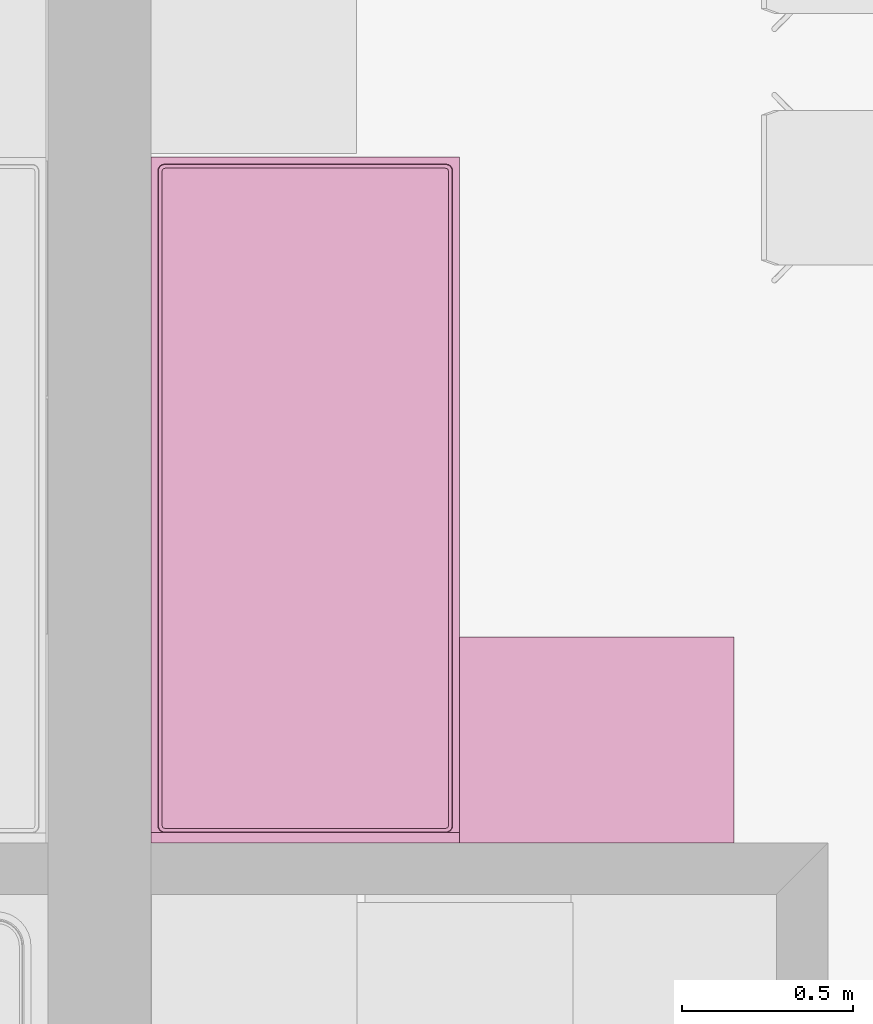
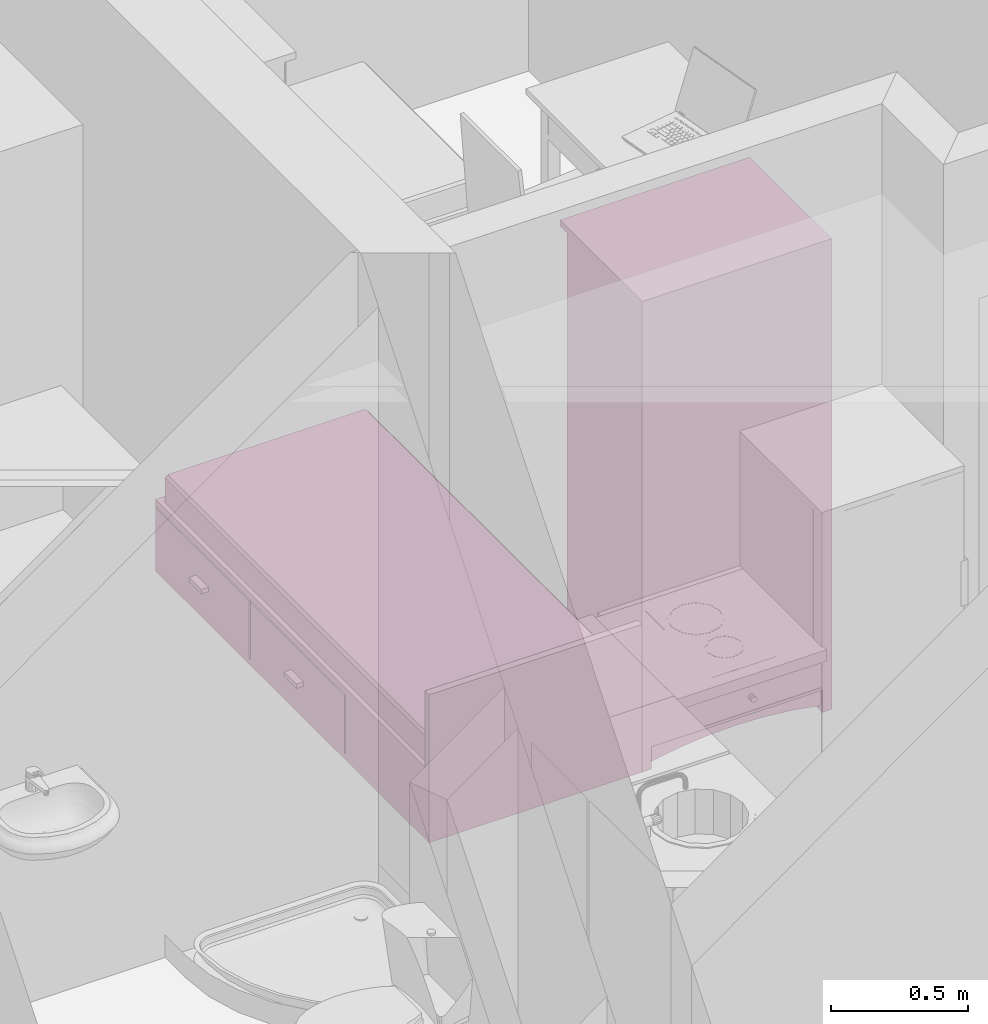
# One storey, part 110 of 172: 2 furnishings.
"""IFC2X3 building model written with IfcOpenShell, lengths in millimetres."""

from ifc_helpers import new_model, entity, si_unit, converted_unit, money_unit, direction, frame, origin_with_axes, place, context, subcontext, project, spatial, faceted_brep, source, transform, mapped, material, material_list, type_object, element, save


model = new_model("IFC2X3")

# Units and contexts
model_context = context("Model", 3, precision=1e-05, world=origin_with_axes(), true_north=direction((0.0, 1.0)))
body_context = subcontext(model_context, "Body", "Model", "MODEL_VIEW")
ifc_project = project(units=[si_unit("LENGTHUNIT", "METRE", prefix="MILLI"), si_unit("AREAUNIT", "SQUARE_METRE"), si_unit("VOLUMEUNIT", "CUBIC_METRE"), converted_unit("PLANEANGLEUNIT", "DEGREE", entity("IfcPlaneAngleMeasure", 0.0174532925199), si_unit("PLANEANGLEUNIT", "RADIAN"), dimensions=[0, 0, 0, 0, 0, 0, 0]), si_unit("SOLIDANGLEUNIT", "STERADIAN"), money_unit("USD"), converted_unit("TIMEUNIT", "Year", entity("IfcTimeMeasure", 31556926.0), si_unit("TIMEUNIT", "SECOND"), dimensions=[0, 0, 0, 0, 0, 0, 0]), si_unit("MASSUNIT", "GRAM"), si_unit("THERMODYNAMICTEMPERATUREUNIT", "DEGREE_CELSIUS"), si_unit("LUMINOUSINTENSITYUNIT", "LUMEN")], contexts=[model_context])

# Site, building, storey
site_placement = place(None, origin_with_axes())
site = spatial("IfcSite", under=ifc_project, at=site_placement, Name="Site", CompositionType="ELEMENT")
building_placement = place(site_placement, origin_with_axes())
building = spatial("IfcBuilding", under=site, at=building_placement, Name="Building", CompositionType="ELEMENT")
storey_placement = place(building_placement, frame((0.0, 0.0, 3200.0), z_axis=(0.0, 0.0, 1.0), x_axis=(1.0, 0.0, 0.0)))
storey = spatial("IfcBuildingStorey", under=building, at=storey_placement, Name="3KORRUS", CompositionType="ELEMENT", Elevation=3200.0)

# Furnishings
ifc_material = material(Name="Background")
ifc_material_list = material_list([ifc_material])
furnishing_element_type_1 = type_object("IfcFurnishingElementType", Name="Bed 19")
shared_shape_1 = source(origin_with_axes(), body_context, "Body", "Brep", [
    faceted_brep([(900.0, 1970.0, 0.0), (0.0, 1970.0, 0.0), (0.0, 2000.0, 0.0), (900.0, 2000.0, 0.0), (900.0, 1970.0, 660.0), (0.0, 1970.0, 660.0), (0.0, 2000.0, 660.0), (900.0, 2000.0, 660.0)], [[[0, 1, 2, 3]], [[1, 0, 4, 5]], [[2, 1, 5, 6]], [[3, 2, 6, 7]], [[0, 3, 7, 4]], [[5, 4, 7, 6]]]),
    faceted_brep([(900.0, 0.0, 0.0), (0.0, 0.0, 0.0), (0.0, 1970.0, 0.0), (900.0, 1970.0, 0.0), (900.0, 0.0, 320.0), (0.0, 0.0, 320.0), (0.0, 1970.0, 320.0), (900.0, 1970.0, 320.0)], [[[0, 1, 2, 3]], [[1, 0, 4, 5]], [[2, 1, 5, 6]], [[3, 2, 6, 7]], [[0, 3, 7, 4]], [[5, 4, 7, 6]]]),
    faceted_brep([(905.0, 10.0, 30.0), (900.0, 10.0, 30.0), (900.0, 695.0, 30.0), (905.0, 695.0, 30.0), (905.0, 10.0, 290.0), (900.0, 10.0, 290.0), (900.0, 695.0, 290.0), (905.0, 695.0, 290.0)], [[[0, 1, 2, 3]], [[1, 0, 4, 5]], [[2, 1, 5, 6]], [[3, 2, 6, 7]], [[0, 3, 7, 4]], [[5, 4, 7, 6]]]),
    faceted_brep([(935.0, 307.5, 150.0), (905.0, 307.5, 150.0), (905.0, 397.5, 150.0), (935.0, 397.5, 150.0), (935.0, 307.5, 170.0), (905.0, 307.5, 170.0), (905.0, 397.5, 170.0), (935.0, 397.5, 170.0)], [[[0, 1, 2, 3]], [[1, 0, 4, 5]], [[2, 1, 5, 6]], [[3, 2, 6, 7]], [[0, 3, 7, 4]], [[5, 4, 7, 6]]]),
    faceted_brep([(905.0, 705.0, 30.0), (900.0, 705.0, 30.0), (900.0, 1390.0, 30.0), (905.0, 1390.0, 30.0), (905.0, 705.0, 290.0), (900.0, 705.0, 290.0), (900.0, 1390.0, 290.0), (905.0, 1390.0, 290.0)], [[[0, 1, 2, 3]], [[1, 0, 4, 5]], [[2, 1, 5, 6]], [[3, 2, 6, 7]], [[0, 3, 7, 4]], [[5, 4, 7, 6]]]),
    faceted_brep([(935.0, 1002.5, 150.0), (905.0, 1002.5, 150.0), (905.0, 1092.5, 150.0), (935.0, 1092.5, 150.0), (935.0, 1002.5, 170.0), (905.0, 1002.5, 170.0), (905.0, 1092.5, 170.0), (935.0, 1092.5, 170.0)], [[[0, 1, 2, 3]], [[1, 0, 4, 5]], [[2, 1, 5, 6]], [[3, 2, 6, 7]], [[0, 3, 7, 4]], [[5, 4, 7, 6]]]),
    faceted_brep([(20.0, 40.0, 350.0), (20.0, 1950.0, 350.0), (21.522, 1957.654, 350.0), (25.858, 1964.142, 350.0), (32.346, 1968.478, 350.0), (40.0, 1970.0, 350.0), (860.0, 1970.0, 350.0), (867.654, 1968.478, 350.0), (874.142, 1964.142, 350.0), (878.478, 1957.654, 350.0), (880.0, 1950.0, 350.0), (880.0, 40.0, 350.0), (878.478, 32.346, 350.0), (874.142, 25.858, 350.0), (867.654, 21.522, 350.0), (860.0, 20.0, 350.0), (40.0, 20.0, 350.0), (32.346, 21.522, 350.0), (25.858, 25.858, 350.0), (21.522, 32.346, 350.0), (20.0, 40.0, 420.0), (20.0, 1950.0, 420.0), (21.522, 1957.654, 420.0), (25.858, 1964.142, 420.0), (32.346, 1968.478, 420.0), (40.0, 1970.0, 420.0), (860.0, 1970.0, 420.0), (867.654, 1968.478, 420.0), (874.142, 1964.142, 420.0), (878.478, 1957.654, 420.0), (880.0, 1950.0, 420.0), (880.0, 40.0, 420.0), (878.478, 32.346, 420.0), (874.142, 25.858, 420.0), (867.654, 21.522, 420.0), (860.0, 20.0, 420.0), (40.0, 20.0, 420.0), (32.346, 21.522, 420.0), (25.858, 25.858, 420.0), (21.522, 32.346, 420.0), (21.522, 40.15, 427.654), (21.522, 1949.85, 427.654), (22.956, 1957.06, 427.654), (26.955, 1963.045, 427.654), (32.94, 1967.044, 427.654), (40.15, 1968.478, 427.654), (859.85, 1968.478, 427.654), (867.06, 1967.044, 427.654), (873.045, 1963.045, 427.654), (877.044, 1957.06, 427.654), (878.478, 1949.85, 427.654), (878.478, 40.15, 427.654), (877.044, 32.94, 427.654), (873.045, 26.955, 427.654), (867.06, 22.956, 427.654), (859.85, 21.522, 427.654), (40.15, 21.522, 427.654), (32.94, 22.956, 427.654), (26.955, 26.955, 427.654), (22.956, 32.94, 427.654), (32.346, 41.216, 438.478), (32.346, 1948.784, 438.478), (33.152, 1952.836, 438.478), (34.759, 1955.241, 438.478), (37.164, 1956.848, 438.478), (41.216, 1957.654, 438.478), (858.784, 1957.654, 438.478), (862.836, 1956.848, 438.478), (865.241, 1955.241, 438.478), (866.848, 1952.836, 438.478), (867.654, 1948.784, 438.478), (867.654, 41.216, 438.478), (866.848, 37.164, 438.478), (865.241, 34.759, 438.478), (862.836, 33.152, 438.478), (858.784, 32.346, 438.478), (41.216, 32.346, 438.478), (37.164, 33.152, 438.478), (34.759, 34.759, 438.478), (33.152, 37.164, 438.478), (40.0, 41.97, 440.0), (40.0, 1948.03, 440.0), (40.327, 1949.673, 440.0), (40.0, 1950.0, 439.924), (41.97, 1950.0, 440.0), (858.03, 1950.0, 440.0), (859.673, 1949.673, 440.0), (860.0, 1950.0, 439.924), (860.0, 1948.03, 440.0), (860.0, 41.97, 440.0), (859.673, 40.327, 440.0), (860.0, 40.0, 439.924), (858.03, 40.0, 440.0), (41.97, 40.0, 440.0), (40.327, 40.327, 440.0), (40.0, 40.0, 439.924)], [[[0, 1, 2, 3, 4, 5, 6, 7, 8, 9, 10, 11, 12, 13, 14, 15, 16, 17, 18, 19]], [[1, 0, 20, 21]], [[2, 1, 21, 22]], [[3, 2, 22, 23]], [[4, 3, 23, 24]], [[5, 4, 24, 25]], [[6, 5, 25, 26]], [[7, 6, 26, 27]], [[8, 7, 27, 28]], [[9, 8, 28, 29]], [[10, 9, 29, 30]], [[11, 10, 30, 31]], [[12, 11, 31, 32]], [[13, 12, 32, 33]], [[14, 13, 33, 34]], [[15, 14, 34, 35]], [[16, 15, 35, 36]], [[17, 16, 36, 37]], [[18, 17, 37, 38]], [[19, 18, 38, 39]], [[0, 19, 39, 20]], [[21, 20, 40, 41]], [[22, 21, 41, 42]], [[23, 22, 42, 43]], [[24, 23, 43, 44]], [[25, 24, 44, 45]], [[26, 25, 45, 46]], [[27, 26, 46, 47]], [[28, 27, 47, 48]], [[29, 28, 48, 49]], [[30, 29, 49, 50]], [[31, 30, 50, 51]], [[32, 31, 51, 52]], [[33, 32, 52, 53]], [[34, 33, 53, 54]], [[35, 34, 54, 55]], [[36, 35, 55, 56]], [[37, 36, 56, 57]], [[38, 37, 57, 58]], [[39, 38, 58, 59]], [[20, 39, 59, 40]], [[41, 40, 60, 61]], [[42, 41, 61, 62]], [[43, 42, 62, 63]], [[44, 43, 63, 64]], [[45, 44, 64, 65]], [[46, 45, 65, 66]], [[47, 46, 66, 67]], [[48, 47, 67, 68]], [[49, 48, 68, 69]], [[50, 49, 69, 70]], [[51, 50, 70, 71]], [[52, 51, 71, 72]], [[53, 52, 72, 73]], [[54, 53, 73, 74]], [[55, 54, 74, 75]], [[56, 55, 75, 76]], [[57, 56, 76, 77]], [[58, 57, 77, 78]], [[59, 58, 78, 79]], [[40, 59, 79, 60]], [[61, 60, 80, 81]], [[62, 61, 81, 82, 83]], [[63, 62, 83]], [[64, 63, 83]], [[65, 64, 83, 82, 84]], [[66, 65, 84, 85]], [[67, 66, 85, 86, 87]], [[68, 67, 87]], [[69, 68, 87]], [[70, 69, 87, 86, 88]], [[71, 70, 88, 89]], [[72, 71, 89, 90, 91]], [[73, 72, 91]], [[74, 73, 91]], [[75, 74, 91, 90, 92]], [[76, 75, 92, 93]], [[77, 76, 93, 94, 95]], [[78, 77, 95]], [[79, 78, 95]], [[60, 79, 95, 94, 80]], [[81, 80, 94, 93, 92, 90, 89, 88, 86, 85, 84, 82]]]),
    faceted_brep([(20.0, 40.0, 350.0), (21.522, 32.346, 350.0), (25.858, 25.858, 350.0), (32.346, 21.522, 350.0), (40.0, 20.0, 350.0), (860.0, 20.0, 350.0), (867.654, 21.522, 350.0), (874.142, 25.858, 350.0), (878.478, 32.346, 350.0), (880.0, 40.0, 350.0), (880.0, 1950.0, 350.0), (878.478, 1957.654, 350.0), (874.142, 1964.142, 350.0), (867.654, 1968.478, 350.0), (860.0, 1970.0, 350.0), (40.0, 1970.0, 350.0), (32.346, 1968.478, 350.0), (25.858, 1964.142, 350.0), (21.522, 1957.654, 350.0), (20.0, 1950.0, 350.0), (20.0, 40.0, 320.0), (21.522, 32.346, 320.0), (25.858, 25.858, 320.0), (32.346, 21.522, 320.0), (40.0, 20.0, 320.0), (860.0, 20.0, 320.0), (867.654, 21.522, 320.0), (874.142, 25.858, 320.0), (878.478, 32.346, 320.0), (880.0, 40.0, 320.0), (880.0, 1950.0, 320.0), (878.478, 1957.654, 320.0), (874.142, 1964.142, 320.0), (867.654, 1968.478, 320.0), (860.0, 1970.0, 320.0), (40.0, 1970.0, 320.0), (32.346, 1968.478, 320.0), (25.858, 1964.142, 320.0), (21.522, 1957.654, 320.0), (20.0, 1950.0, 320.0)], [[[0, 1, 2, 3, 4, 5, 6, 7, 8, 9, 10, 11, 12, 13, 14, 15, 16, 17, 18, 19]], [[0, 20, 21, 1]], [[1, 21, 22, 2]], [[2, 22, 23, 3]], [[3, 23, 24, 4]], [[4, 24, 25, 5]], [[5, 25, 26, 6]], [[6, 26, 27, 7]], [[7, 27, 28, 8]], [[8, 28, 29, 9]], [[9, 29, 30, 10]], [[10, 30, 31, 11]], [[11, 31, 32, 12]], [[12, 32, 33, 13]], [[13, 33, 34, 14]], [[14, 34, 35, 15]], [[15, 35, 36, 16]], [[16, 36, 37, 17]], [[17, 37, 38, 18]], [[18, 38, 39, 19]], [[19, 39, 20, 0]], [[20, 39, 38, 37, 36, 35, 34, 33, 32, 31, 30, 29, 28, 27, 26, 25, 24, 23, 22, 21]]]),
])
furnishing_1_placement = place(storey_placement, frame((-35090.2967033, -7216.37850445, 0.0), z_axis=(0.0, 0.0, 1.0), x_axis=(-1.0, 0.0, 0.0)))
element("IfcFurnishingElement", 1, at=furnishing_1_placement, inside=storey, type_object=furnishing_element_type_1, material=ifc_material_list, Name="FU - 013", context=body_context, shape_type="MappedRepresentation", body=[
    mapped(shared_shape_1, transform((0.0, 0.0, 0.0))),
])
furnishing_element_type_2 = type_object("IfcFurnishingElementType", Name="Cupboard 19")
shared_shape_2 = source(origin_with_axes(), body_context, "Body", "Brep", [
    faceted_brep([(780.0, 600.0, 120.0), (780.0, 600.0, 2050.0), (780.0, 580.0, 2050.0), (780.0, 580.0, 120.0), (20.0, 600.0, 120.0), (20.0, 600.0, 2050.0), (20.0, 580.0, 2050.0), (20.0, 580.0, 120.0)], [[[0, 1, 2, 3]], [[4, 5, 1, 0]], [[1, 5, 6, 2]], [[3, 2, 6, 7]], [[0, 3, 7, 4]], [[7, 6, 5, 4]]]),
    faceted_brep([(0.0, 50.0, 100.0), (0.0, 600.0, 100.0), (20.0, 600.0, 100.0), (20.0, 50.0, 100.0), (0.0, 50.0, 2070.0), (0.0, 600.0, 2070.0), (20.0, 600.0, 2070.0), (20.0, 50.0, 2070.0)], [[[0, 1, 2, 3]], [[0, 4, 5, 1]], [[1, 5, 6, 2]], [[2, 6, 7, 3]], [[3, 7, 4, 0]], [[7, 6, 5, 4]]]),
    faceted_brep([(780.0, 50.0, 100.0), (780.0, 600.0, 100.0), (800.0, 600.0, 100.0), (800.0, 50.0, 100.0), (780.0, 50.0, 2070.0), (780.0, 600.0, 2070.0), (800.0, 600.0, 2070.0), (800.0, 50.0, 2070.0)], [[[0, 1, 2, 3]], [[0, 4, 5, 1]], [[1, 5, 6, 2]], [[2, 6, 7, 3]], [[3, 7, 4, 0]], [[7, 6, 5, 4]]]),
    faceted_brep([(20.0, 50.0, 100.0), (20.0, 600.0, 100.0), (780.0, 600.0, 100.0), (780.0, 50.0, 100.0), (20.0, 50.0, 120.0), (20.0, 600.0, 120.0), (780.0, 600.0, 120.0), (780.0, 50.0, 120.0)], [[[0, 1, 2, 3]], [[0, 4, 5, 1]], [[1, 5, 6, 2]], [[2, 6, 7, 3]], [[3, 7, 4, 0]], [[7, 6, 5, 4]]]),
    faceted_brep([(20.0, 50.0, 2050.0), (20.0, 600.0, 2050.0), (780.0, 600.0, 2050.0), (780.0, 50.0, 2050.0), (20.0, 50.0, 2070.0), (20.0, 600.0, 2070.0), (780.0, 600.0, 2070.0), (780.0, 50.0, 2070.0)], [[[0, 1, 2, 3]], [[0, 4, 5, 1]], [[1, 5, 6, 2]], [[2, 6, 7, 3]], [[3, 7, 4, 0]], [[7, 6, 5, 4]]]),
    faceted_brep([(0.0, 600.0, 2070.0), (0.0, 0.0, 2070.0), (0.0, 0.0, 2100.0), (0.0, 600.0, 2100.0), (800.0, 600.0, 2070.0), (800.0, 0.0, 2070.0), (800.0, 0.0, 2100.0), (800.0, 600.0, 2100.0)], [[[0, 1, 2, 3]], [[0, 4, 5, 1]], [[1, 5, 6, 2]], [[3, 2, 6, 7]], [[4, 0, 3, 7]], [[5, 4, 7, 6]]]),
    faceted_brep([(760.0, 590.0, 25.0), (760.0, 570.0, 25.0), (640.962, 570.0, 45.8), (640.962, 590.0, 45.8), (760.0, 590.0, 100.0), (760.0, 570.0, 100.0), (40.0, 570.0, 100.0), (40.0, 570.0, 25.0), (159.038, 570.0, 45.8), (279.23, 570.0, 58.32), (400.0, 570.0, 62.5), (520.77, 570.0, 58.32), (520.77, 590.0, 58.32), (400.0, 590.0, 62.5), (279.23, 590.0, 58.32), (159.038, 590.0, 45.8), (40.0, 590.0, 25.0), (40.0, 590.0, 100.0)], [[[0, 1, 2, 3]], [[4, 5, 1, 0]], [[1, 5, 6, 7, 8, 9, 10, 11, 2]], [[3, 2, 11, 12]], [[0, 3, 12, 13, 14, 15, 16, 17, 4]], [[17, 6, 5, 4]], [[16, 7, 6, 17]], [[15, 8, 7, 16]], [[14, 9, 8, 15]], [[13, 10, 9, 14]], [[12, 11, 10, 13]]]),
    faceted_brep([(760.0, 80.0, 25.0), (760.0, 60.0, 25.0), (640.962, 60.0, 45.8), (640.962, 80.0, 45.8), (760.0, 80.0, 100.0), (760.0, 60.0, 100.0), (40.0, 60.0, 100.0), (40.0, 60.0, 25.0), (159.038, 60.0, 45.8), (279.23, 60.0, 58.32), (400.0, 60.0, 62.5), (520.77, 60.0, 58.32), (520.77, 80.0, 58.32), (400.0, 80.0, 62.5), (279.23, 80.0, 58.32), (159.038, 80.0, 45.8), (40.0, 80.0, 25.0), (40.0, 80.0, 100.0)], [[[0, 1, 2, 3]], [[4, 5, 1, 0]], [[1, 5, 6, 7, 8, 9, 10, 11, 2]], [[3, 2, 11, 12]], [[0, 3, 12, 13, 14, 15, 16, 17, 4]], [[17, 6, 5, 4]], [[16, 7, 6, 17]], [[15, 8, 7, 16]], [[14, 9, 8, 15]], [[13, 10, 9, 14]], [[12, 11, 10, 13]]]),
    faceted_brep([(790.0, 90.0, 25.0), (770.0, 90.0, 25.0), (770.0, 141.266, 38.072), (790.0, 141.266, 38.072), (790.0, 90.0, 100.0), (770.0, 90.0, 100.0), (770.0, 560.0, 100.0), (770.0, 560.0, 25.0), (770.0, 508.734, 38.072), (770.0, 456.752, 47.92), (770.0, 404.257, 54.508), (770.0, 351.453, 57.808), (770.0, 298.547, 57.808), (770.0, 245.743, 54.508), (770.0, 193.248, 47.92), (790.0, 193.248, 47.92), (790.0, 245.743, 54.508), (790.0, 298.547, 57.808), (790.0, 351.453, 57.808), (790.0, 404.257, 54.508), (790.0, 456.752, 47.92), (790.0, 508.734, 38.072), (790.0, 560.0, 25.0), (790.0, 560.0, 100.0)], [[[0, 1, 2, 3]], [[4, 5, 1, 0]], [[1, 5, 6, 7, 8, 9, 10, 11, 12, 13, 14, 2]], [[3, 2, 14, 15]], [[0, 3, 15, 16, 17, 18, 19, 20, 21, 22, 23, 4]], [[23, 6, 5, 4]], [[22, 7, 6, 23]], [[21, 8, 7, 22]], [[20, 9, 8, 21]], [[19, 10, 9, 20]], [[18, 11, 10, 19]], [[17, 12, 11, 18]], [[16, 13, 12, 17]], [[15, 14, 13, 16]]]),
    faceted_brep([(30.0, 90.0, 25.0), (10.0, 90.0, 25.0), (10.0, 141.266, 38.072), (30.0, 141.266, 38.072), (30.0, 90.0, 100.0), (10.0, 90.0, 100.0), (10.0, 560.0, 100.0), (10.0, 560.0, 25.0), (10.0, 508.734, 38.072), (10.0, 456.752, 47.92), (10.0, 404.257, 54.508), (10.0, 351.453, 57.808), (10.0, 298.547, 57.808), (10.0, 245.743, 54.508), (10.0, 193.248, 47.92), (30.0, 193.248, 47.92), (30.0, 245.743, 54.508), (30.0, 298.547, 57.808), (30.0, 351.453, 57.808), (30.0, 404.257, 54.508), (30.0, 456.752, 47.92), (30.0, 508.734, 38.072), (30.0, 560.0, 25.0), (30.0, 560.0, 100.0)], [[[0, 1, 2, 3]], [[4, 5, 1, 0]], [[1, 5, 6, 7, 8, 9, 10, 11, 12, 13, 14, 2]], [[3, 2, 14, 15]], [[0, 3, 15, 16, 17, 18, 19, 20, 21, 22, 23, 4]], [[23, 6, 5, 4]], [[22, 7, 6, 23]], [[21, 8, 7, 22]], [[20, 9, 8, 21]], [[19, 10, 9, 20]], [[18, 11, 10, 19]], [[17, 12, 11, 18]], [[16, 13, 12, 17]], [[15, 14, 13, 16]]]),
    faceted_brep([(760.0, 560.0, 0.0), (760.0, 560.0, 100.0), (760.0, 600.0, 100.0), (760.0, 600.0, 0.0), (800.0, 560.0, 0.0), (800.0, 560.0, 100.0), (800.0, 600.0, 100.0), (800.0, 600.0, 0.0)], [[[0, 1, 2, 3]], [[4, 5, 1, 0]], [[1, 5, 6, 2]], [[3, 2, 6, 7]], [[0, 3, 7, 4]], [[7, 6, 5, 4]]]),
    faceted_brep([(0.0, 560.0, 0.0), (0.0, 560.0, 100.0), (0.0, 600.0, 100.0), (0.0, 600.0, 0.0), (40.0, 560.0, 0.0), (40.0, 560.0, 100.0), (40.0, 600.0, 100.0), (40.0, 600.0, 0.0)], [[[0, 1, 2, 3]], [[4, 5, 1, 0]], [[1, 5, 6, 2]], [[3, 2, 6, 7]], [[0, 3, 7, 4]], [[7, 6, 5, 4]]]),
    faceted_brep([(760.0, 50.0, 0.0), (760.0, 50.0, 100.0), (760.0, 90.0, 100.0), (760.0, 90.0, 0.0), (800.0, 50.0, 0.0), (800.0, 50.0, 100.0), (800.0, 90.0, 100.0), (800.0, 90.0, 0.0)], [[[0, 1, 2, 3]], [[4, 5, 1, 0]], [[1, 5, 6, 2]], [[3, 2, 6, 7]], [[0, 3, 7, 4]], [[7, 6, 5, 4]]]),
    faceted_brep([(0.0, 50.0, 0.0), (0.0, 50.0, 100.0), (0.0, 90.0, 100.0), (0.0, 90.0, 0.0), (40.0, 50.0, 0.0), (40.0, 50.0, 100.0), (40.0, 90.0, 100.0), (40.0, 90.0, 0.0)], [[[0, 1, 2, 3]], [[4, 5, 1, 0]], [[1, 5, 6, 2]], [[3, 2, 6, 7]], [[0, 3, 7, 4]], [[7, 6, 5, 4]]]),
    faceted_brep([(780.0, 580.0, 587.5), (780.0, 580.0, 607.5), (780.0, 50.0, 607.5), (780.0, 50.0, 587.5), (20.0, 580.0, 587.5), (20.0, 580.0, 607.5), (20.0, 50.0, 607.5), (20.0, 50.0, 587.5)], [[[0, 1, 2, 3]], [[4, 5, 1, 0]], [[1, 5, 6, 2]], [[3, 2, 6, 7]], [[0, 3, 7, 4]], [[7, 6, 5, 4]]]),
    faceted_brep([(780.0, 580.0, 1075.0), (780.0, 580.0, 1095.0), (780.0, 50.0, 1095.0), (780.0, 50.0, 1075.0), (20.0, 580.0, 1075.0), (20.0, 580.0, 1095.0), (20.0, 50.0, 1095.0), (20.0, 50.0, 1075.0)], [[[0, 1, 2, 3]], [[4, 5, 1, 0]], [[1, 5, 6, 2]], [[3, 2, 6, 7]], [[0, 3, 7, 4]], [[7, 6, 5, 4]]]),
    faceted_brep([(780.0, 580.0, 1562.5), (780.0, 580.0, 1582.5), (780.0, 50.0, 1582.5), (780.0, 50.0, 1562.5), (20.0, 580.0, 1562.5), (20.0, 580.0, 1582.5), (20.0, 50.0, 1582.5), (20.0, 50.0, 1562.5)], [[[0, 1, 2, 3]], [[4, 5, 1, 0]], [[1, 5, 6, 2]], [[3, 2, 6, 7]], [[0, 3, 7, 4]], [[7, 6, 5, 4]]]),
    faceted_brep([(789.5, 50.0, 110.5), (400.5, 50.0, 110.5), (400.5, 50.0, 2059.5), (789.5, 50.0, 2059.5), (789.5, 40.0, 110.5), (400.5, 40.0, 110.5), (400.5, 40.0, 2059.5), (789.5, 40.0, 2059.5), (779.5, 30.0, 120.5), (410.5, 30.0, 120.5), (410.5, 30.0, 2049.5), (779.5, 30.0, 2049.5)], [[[0, 1, 2, 3]], [[0, 4, 5, 1]], [[1, 5, 6, 2]], [[2, 6, 7, 3]], [[3, 7, 4, 0]], [[4, 8, 9, 5]], [[5, 9, 10, 6]], [[6, 10, 11, 7]], [[7, 11, 8, 4]], [[10, 9, 8, 11]]]),
    faceted_brep([(399.5, 50.0, 110.5), (10.5, 50.0, 110.5), (10.5, 50.0, 2059.5), (399.5, 50.0, 2059.5), (399.5, 40.0, 110.5), (10.5, 40.0, 110.5), (10.5, 40.0, 2059.5), (399.5, 40.0, 2059.5), (389.5, 30.0, 120.5), (20.5, 30.0, 120.5), (20.5, 30.0, 2049.5), (389.5, 30.0, 2049.5)], [[[0, 1, 2, 3]], [[0, 4, 5, 1]], [[1, 5, 6, 2]], [[2, 6, 7, 3]], [[3, 7, 4, 0]], [[4, 8, 9, 5]], [[5, 9, 10, 6]], [[6, 10, 11, 7]], [[7, 11, 8, 4]], [[10, 9, 8, 11]]]),
    faceted_brep([(339.608, 30.0, 954.0), (338.0, 30.0, 960.0), (339.608, 30.0, 966.0), (344.0, 30.0, 970.392), (350.0, 30.0, 972.0), (356.0, 30.0, 970.392), (360.392, 30.0, 966.0), (362.0, 30.0, 960.0), (360.392, 30.0, 954.0), (356.0, 30.0, 949.608), (350.0, 30.0, 948.0), (344.0, 30.0, 949.608), (339.608, 5.0, 954.0), (338.0, 5.0, 960.0), (339.608, 5.0, 966.0), (344.0, 5.0, 970.392), (350.0, 5.0, 972.0), (356.0, 5.0, 970.392), (360.392, 5.0, 966.0), (362.0, 5.0, 960.0), (360.392, 5.0, 954.0), (356.0, 5.0, 949.608), (350.0, 5.0, 948.0), (344.0, 5.0, 949.608)], [[[0, 1, 2, 3, 4, 5, 6, 7, 8, 9, 10, 11]], [[0, 12, 13, 1]], [[1, 13, 14, 2]], [[2, 14, 15, 3]], [[3, 15, 16, 4]], [[4, 16, 17, 5]], [[5, 17, 18, 6]], [[6, 18, 19, 7]], [[7, 19, 20, 8]], [[8, 20, 21, 9]], [[9, 21, 22, 10]], [[10, 22, 23, 11]], [[11, 23, 12, 0]], [[12, 23, 22, 21, 20, 19, 18, 17, 16, 15, 14, 13]]]),
    faceted_brep([(460.392, 30.0, 954.0), (456.0, 30.0, 949.608), (450.0, 30.0, 948.0), (444.0, 30.0, 949.608), (439.608, 30.0, 954.0), (438.0, 30.0, 960.0), (439.608, 30.0, 966.0), (444.0, 30.0, 970.392), (450.0, 30.0, 972.0), (456.0, 30.0, 970.392), (460.392, 30.0, 966.0), (462.0, 30.0, 960.0), (460.392, 5.0, 954.0), (456.0, 5.0, 949.608), (450.0, 5.0, 948.0), (444.0, 5.0, 949.608), (439.608, 5.0, 954.0), (438.0, 5.0, 960.0), (439.608, 5.0, 966.0), (444.0, 5.0, 970.392), (450.0, 5.0, 972.0), (456.0, 5.0, 970.392), (460.392, 5.0, 966.0), (462.0, 5.0, 960.0)], [[[0, 1, 2, 3, 4, 5, 6, 7, 8, 9, 10, 11]], [[1, 0, 12, 13]], [[2, 1, 13, 14]], [[3, 2, 14, 15]], [[4, 3, 15, 16]], [[5, 4, 16, 17]], [[6, 5, 17, 18]], [[7, 6, 18, 19]], [[8, 7, 19, 20]], [[9, 8, 20, 21]], [[10, 9, 21, 22]], [[11, 10, 22, 23]], [[0, 11, 23, 12]], [[12, 23, 22, 21, 20, 19, 18, 17, 16, 15, 14, 13]]]),
])
furnishing_2_placement = place(storey_placement, frame((-34290.2967033, -8616.37850445, 0.0), z_axis=(0.0, 0.0, 1.0), x_axis=(-1.0, 0.0, 0.0)))
element("IfcFurnishingElement", 2, at=furnishing_2_placement, inside=storey, type_object=furnishing_element_type_2, material=ifc_material_list, Name="FU - 014", context=body_context, shape_type="MappedRepresentation", body=[
    mapped(shared_shape_2, transform((0.0, 0.0, 0.0))),
])

save(model, "model.ifc")
